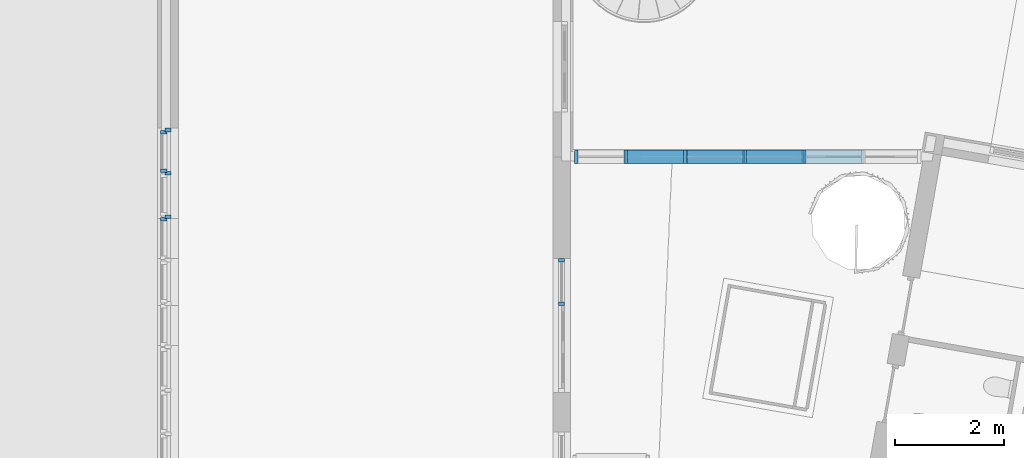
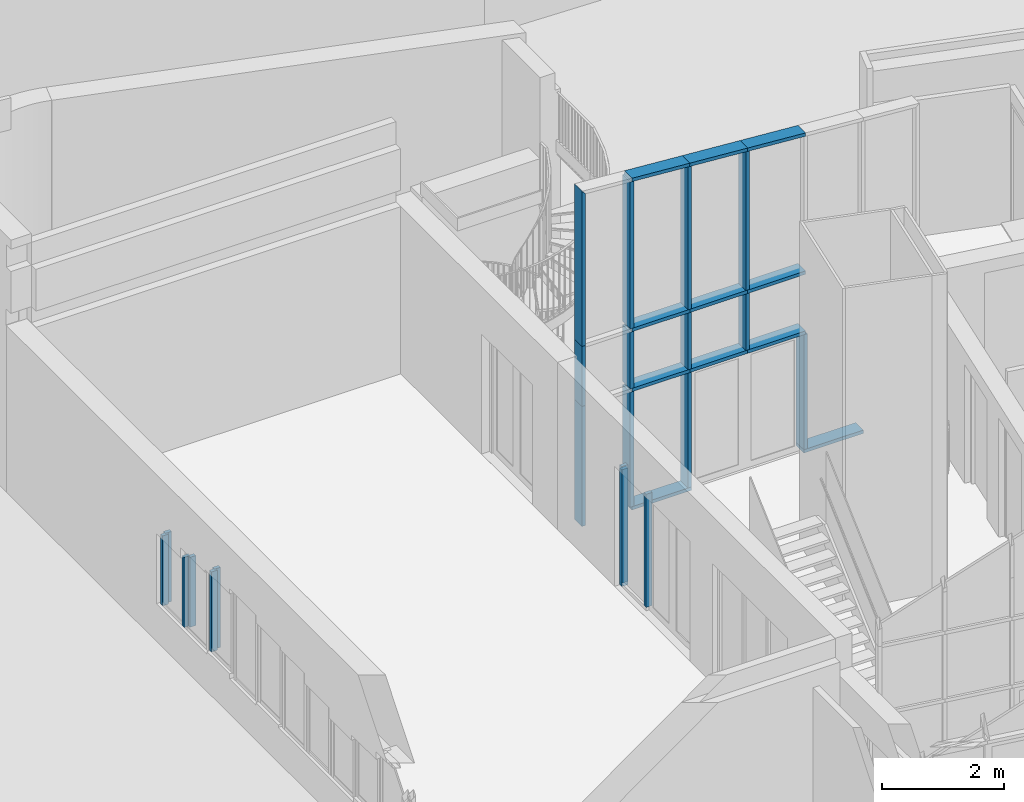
# One storey, part 5 of 21: 32 members, 6 elements without a shape of their own.
"""IFC2X3 building model written with IfcOpenShell, lengths in millimetres."""

from ifc_helpers import new_model, entity, si_unit, converted_unit, derived_unit, direction, frame, frame_2d, origin, origin_2d_with_axis, place, context, subcontext, project, spatial, polyline, rectangle, outline, extrude, clip, halfspace, bounded_halfspace, source, transform, mapped, material, type_object, type_shapes, element, aggregate, save


model = new_model("IFC2X3")

# Units and contexts
model_context = context("Model", 3, precision=0.01, world=origin(), true_north=direction((6.12303176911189e-17, 1.0)))
body_context = subcontext(model_context, "Body", "Model", "MODEL_VIEW")
ifc_project = project(units=[si_unit("LENGTHUNIT", "METRE", prefix="MILLI"), si_unit("AREAUNIT", "SQUARE_METRE"), si_unit("VOLUMEUNIT", "CUBIC_METRE"), converted_unit("PLANEANGLEUNIT", "DEGREE", entity("IfcRatioMeasure", 0.0174532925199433), si_unit("PLANEANGLEUNIT", "RADIAN"), dimensions=[0, 0, 0, 0, 0, 0, 0]), si_unit("MASSUNIT", "GRAM", prefix="KILO"), derived_unit("MASSDENSITYUNIT", [(si_unit("MASSUNIT", "GRAM", prefix="KILO"), 1), (si_unit("LENGTHUNIT", "METRE"), -3)]), derived_unit("MOMENTOFINERTIAUNIT", [(si_unit("LENGTHUNIT", "METRE"), 4)]), si_unit("TIMEUNIT", "SECOND"), si_unit("FREQUENCYUNIT", "HERTZ"), si_unit("THERMODYNAMICTEMPERATUREUNIT", "DEGREE_CELSIUS"), derived_unit("THERMALTRANSMITTANCEUNIT", [(si_unit("MASSUNIT", "GRAM", prefix="KILO"), 1), (si_unit("THERMODYNAMICTEMPERATUREUNIT", "KELVIN"), -1), (si_unit("TIMEUNIT", "SECOND"), -3)]), derived_unit("VOLUMETRICFLOWRATEUNIT", [(si_unit("LENGTHUNIT", "METRE"), 3), (si_unit("TIMEUNIT", "SECOND"), -1)]), si_unit("ELECTRICCURRENTUNIT", "AMPERE"), si_unit("ELECTRICVOLTAGEUNIT", "VOLT"), si_unit("POWERUNIT", "WATT"), si_unit("FORCEUNIT", "NEWTON", prefix="KILO"), si_unit("ILLUMINANCEUNIT", "LUX"), si_unit("LUMINOUSFLUXUNIT", "LUMEN"), si_unit("LUMINOUSINTENSITYUNIT", "CANDELA"), derived_unit("USERDEFINED", [(si_unit("MASSUNIT", "GRAM", prefix="KILO"), -1), (si_unit("LENGTHUNIT", "METRE"), -2), (si_unit("TIMEUNIT", "SECOND"), 3), (si_unit("LUMINOUSFLUXUNIT", "LUMEN"), 1)]), derived_unit("LINEARVELOCITYUNIT", [(si_unit("LENGTHUNIT", "METRE"), 1), (si_unit("TIMEUNIT", "SECOND"), -1)]), si_unit("PRESSUREUNIT", "PASCAL"), derived_unit("USERDEFINED", [(si_unit("LENGTHUNIT", "METRE"), -2), (si_unit("MASSUNIT", "GRAM", prefix="KILO"), 1), (si_unit("TIMEUNIT", "SECOND"), -2)]), derived_unit("LINEARFORCEUNIT", [(si_unit("MASSUNIT", "GRAM", prefix="KILO"), 1), (si_unit("LENGTHUNIT", "METRE"), 1), (si_unit("TIMEUNIT", "SECOND"), -2), (si_unit("LENGTHUNIT", "METRE"), -1)]), derived_unit("PLANARFORCEUNIT", [(si_unit("MASSUNIT", "GRAM", prefix="KILO"), 1), (si_unit("LENGTHUNIT", "METRE"), 1), (si_unit("TIMEUNIT", "SECOND"), -2), (si_unit("LENGTHUNIT", "METRE"), -2)])], contexts=[model_context])

# Site, building, storey
site_placement = place(None, origin())
site = spatial("IfcSite", under=ifc_project, at=site_placement, Name="<Kadaster Gemeente>;<Kadaster nummer>;<Kadaster sectie>", CompositionType="ELEMENT")
building_placement = place(site_placement, origin())
building = spatial("IfcBuilding", under=site, at=building_placement, Name="JRCZ Middelburg", CompositionType="ELEMENT")
storey_placement = place(building_placement, origin())
storey = spatial("IfcBuildingStorey", under=building, at=storey_placement, Name="00 begane grond", CompositionType="ELEMENT", Elevation=0.0)

# Curtain wall, members
curtain_wall_type_1 = type_object("IfcCurtainWallType", Name="Curtain Wall:Vliesgevel C", PredefinedType="NOTDEFINED")
curtain_wall_1_placement = place(storey_placement, origin())
curtain_wall_1 = element("IfcCurtainWall", 1, at=curtain_wall_1_placement, inside=storey, type_object=curtain_wall_type_1, Name="Curtain Wall:Vliesgevel C", ObjectType="Curtain Wall:Vliesgevel C")
ifc_material_1 = material(Name="RBM_a_kozijn licht")
member_type_1 = type_object("IfcMemberType", Name="Rectangular Mullion:31_CWM_067x114 vliesgevel", PredefinedType="MULLION", material=ifc_material_1)
shared_shape_1 = source(origin(), body_context, "Body", "SweptSolid", [
    extrude(rectangle(XDim=250.0, YDim=67.0, at=origin_2d_with_axis()), frame((0.0, -57.0, -2299.5), z_axis=(0.0, 0.0, 1.0), x_axis=(0.0, -1.0, 0.0)), (0.0, 0.0, 1.0), 2299.5),
])
type_shapes(member_type_1, [shared_shape_1])
member_1_placement = place(storey_placement, frame((19481.1567335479, 19046.62338787, 67.0), z_axis=(0.0, 0.0, -1.0), x_axis=(1.0, 0.0, 0.0)))
member_1 = element("IfcMember", 2, at=member_1_placement, type_object=member_type_1, material=ifc_material_1, Name="Rectangular Mullion:31_CWM_067x114 vliesgevel", ObjectType="Rectangular Mullion:31_CWM_067x114 vliesgevel", context=body_context, shape_type="MappedRepresentation", body=[
    mapped(shared_shape_1, transform((0.0, 0.0, 0.0), scale=1.0)),
])
member_2_placement = place(storey_placement, frame((18386.4296349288, 19046.62338787, 67.0), z_axis=(0.0, 0.0, -1.0), x_axis=(1.0, 0.0, 0.0)))
member_2 = element("IfcMember", 3, at=member_2_placement, type_object=member_type_1, material=ifc_material_1, Name="Rectangular Mullion:31_CWM_067x114 vliesgevel", ObjectType="Rectangular Mullion:31_CWM_067x114 vliesgevel", context=body_context, shape_type="MappedRepresentation", body=[
    mapped(shared_shape_1, transform((0.0, 0.0, 0.0), scale=1.0)),
])
member_3_placement = place(storey_placement, frame((21670.6109307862, 19046.62338787, 67.0), z_axis=(0.0, 0.0, -1.0), x_axis=(1.0, 0.0, 0.0)))
member_3 = element("IfcMember", 4, at=member_3_placement, type_object=member_type_1, material=ifc_material_1, Name="Rectangular Mullion:31_CWM_067x114 vliesgevel", ObjectType="Rectangular Mullion:31_CWM_067x114 vliesgevel", context=body_context, shape_type="MappedRepresentation", body=[
    mapped(shared_shape_1, transform((0.0, 0.0, 0.0), scale=1.0)),
])
member_type_2 = type_object("IfcMemberType", Name="Rectangular Mullion:31_CWM_067x114 vliesgevel", PredefinedType="MULLION", material=ifc_material_1)
shared_shape_2 = source(origin(), body_context, "Body", "SweptSolid", [
    extrude(rectangle(XDim=250.0, YDim=67.0, at=origin_2d_with_axis()), frame((-33.5, -57.0, -2400.0), z_axis=(0.0, 0.0, 1.0), x_axis=(0.0, -1.0, 0.0)), (0.0, 0.0, 1.0), 2400.0),
])
type_shapes(member_type_2, [shared_shape_2])
member_4_placement = place(storey_placement, frame((17439.9418785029, 19046.62338787, 2400.0), z_axis=(0.0, 0.0, 1.0), x_axis=(-1.0, 0.0, 0.0)))
member_4 = element("IfcMember", 5, at=member_4_placement, type_object=member_type_2, material=ifc_material_1, Name="Rectangular Mullion:31_CWM_067x114 vliesgevel", ObjectType="Rectangular Mullion:31_CWM_067x114 vliesgevel", context=body_context, shape_type="MappedRepresentation", body=[
    mapped(shared_shape_2, transform((0.0, 0.0, 0.0), scale=1.0)),
])
member_type_3 = type_object("IfcMemberType", Name="Rectangular Mullion:31_CWM_067x114 vliesgevel", PredefinedType="MULLION", material=ifc_material_1)
shared_shape_3 = source(origin(), body_context, "Body", "SweptSolid", [
    extrude(rectangle(XDim=250.0, YDim=67.0, at=origin_2d_with_axis()), frame((0.0, -57.0, -1133.0), z_axis=(0.0, 0.0, 1.0), x_axis=(0.0, -1.0, 0.0)), (0.0, 0.0, 1.0), 1133.0),
])
type_shapes(member_type_3, [shared_shape_3])
member_5_placement = place(storey_placement, frame((18386.4296349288, 19046.62338787, 2433.5), z_axis=(0.0, 0.0, -1.0), x_axis=(1.0, 0.0, 0.0)))
member_5 = element("IfcMember", 6, at=member_5_placement, type_object=member_type_3, material=ifc_material_1, Name="Rectangular Mullion:31_CWM_067x114 vliesgevel", ObjectType="Rectangular Mullion:31_CWM_067x114 vliesgevel", context=body_context, shape_type="MappedRepresentation", body=[
    mapped(shared_shape_3, transform((0.0, 0.0, 0.0), scale=1.0)),
])
member_6_placement = place(storey_placement, frame((19481.1567335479, 19046.62338787, 2433.5), z_axis=(0.0, 0.0, -1.0), x_axis=(1.0, 0.0, 0.0)))
member_6 = element("IfcMember", 7, at=member_6_placement, type_object=member_type_3, material=ifc_material_1, Name="Rectangular Mullion:31_CWM_067x114 vliesgevel", ObjectType="Rectangular Mullion:31_CWM_067x114 vliesgevel", context=body_context, shape_type="MappedRepresentation", body=[
    mapped(shared_shape_3, transform((0.0, 0.0, 0.0), scale=1.0)),
])
member_7_placement = place(storey_placement, frame((20575.883832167, 19046.62338787, 2433.5), z_axis=(0.0, 0.0, -1.0), x_axis=(1.0, 0.0, 0.0)))
member_7 = element("IfcMember", 8, at=member_7_placement, type_object=member_type_3, material=ifc_material_1, Name="Rectangular Mullion:31_CWM_067x114 vliesgevel", ObjectType="Rectangular Mullion:31_CWM_067x114 vliesgevel", context=body_context, shape_type="MappedRepresentation", body=[
    mapped(shared_shape_3, transform((0.0, 0.0, 0.0), scale=1.0)),
])
member_type_4 = type_object("IfcMemberType", Name="Rectangular Mullion:31_CWM_067x114 vliesgevel", PredefinedType="MULLION", material=ifc_material_1)
shared_shape_4 = source(origin(), body_context, "Body", "SweptSolid", [
    extrude(rectangle(XDim=250.0, YDim=67.0, at=origin_2d_with_axis()), frame((-33.5, -57.0, -1200.0), z_axis=(0.0, 0.0, 1.0), x_axis=(0.0, -1.0, 0.0)), (0.0, 0.0, 1.0), 1200.0),
])
type_shapes(member_type_4, [shared_shape_4])
member_8_placement = place(storey_placement, frame((17439.9418785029, 19046.62338787, 3600.0), z_axis=(0.0, 0.0, 1.0), x_axis=(-1.0, 0.0, 0.0)))
member_8 = element("IfcMember", 9, at=member_8_placement, type_object=member_type_4, material=ifc_material_1, Name="Rectangular Mullion:31_CWM_067x114 vliesgevel", ObjectType="Rectangular Mullion:31_CWM_067x114 vliesgevel", context=body_context, shape_type="MappedRepresentation", body=[
    mapped(shared_shape_4, transform((0.0, 0.0, 0.0), scale=1.0)),
])

curtain_wall_type_2 = type_object("IfcCurtainWallType", Name="Curtain Wall:NLRS_32_CW_067x114", PredefinedType="NOTDEFINED")
curtain_wall_2_placement = place(storey_placement, origin())
curtain_wall_2 = element("IfcCurtainWall", 10, at=curtain_wall_2_placement, inside=storey, type_object=curtain_wall_type_2, Name="Curtain Wall:NLRS_32_CW_067x114", ObjectType="Curtain Wall:NLRS_32_CW_067x114")
ifc_material_2 = material(Name="RBM_i2_binnenkozijn")
member_type_5 = type_object("IfcMemberType", Name="Rectangular Mullion:32_CWM_067x114", PredefinedType="MULLION", material=ifc_material_2)
shared_shape_5 = source(origin(), body_context, "Body", "SweptSolid", [
    extrude(rectangle(XDim=113.999999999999, YDim=67.0, at=origin_2d_with_axis()), frame((-33.5, 0.0, -2400.0), z_axis=(0.0, 0.0, 1.0), x_axis=(0.0, -1.0, 0.0)), (0.0, 0.0, 1.0), 2400.0),
])
type_shapes(member_type_5, [shared_shape_5])
member_9_placement = place(storey_placement, frame((17203.0, 17233.4999996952, 0.0), z_axis=(0.0, 0.0, -1.0), x_axis=(0.0, 1.0, 0.0)))
member_9 = element("IfcMember", 11, at=member_9_placement, type_object=member_type_5, material=ifc_material_2, Name="Rectangular Mullion:32_CWM_067x114", ObjectType="Rectangular Mullion:32_CWM_067x114", context=body_context, shape_type="MappedRepresentation", body=[
    mapped(shared_shape_5, transform((0.0, 0.0, 0.0), scale=1.0)),
])
member_type_6 = type_object("IfcMemberType", Name="Rectangular Mullion:32_CWM_067x114", PredefinedType="MULLION", material=ifc_material_2)
shared_shape_6 = source(origin(), body_context, "Body", "SweptSolid", [
    extrude(rectangle(XDim=113.999999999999, YDim=67.0, at=origin_2d_with_axis()), frame((0.0, 0.0, -2266.0), z_axis=(0.0, 0.0, 1.0), x_axis=(0.0, -1.0, 0.0)), (0.0, 0.0, 1.0), 2266.0),
])
type_shapes(member_type_6, [shared_shape_6])
member_10_placement = place(storey_placement, frame((17203.0, 16400.0, 67.0), z_axis=(0.0, 0.0, -1.0), x_axis=(0.0, 1.0, 0.0)))
member_10 = element("IfcMember", 12, at=member_10_placement, type_object=member_type_6, material=ifc_material_2, Name="Rectangular Mullion:32_CWM_067x114", ObjectType="Rectangular Mullion:32_CWM_067x114", context=body_context, shape_type="MappedRepresentation", body=[
    mapped(shared_shape_6, transform((0.0, 0.0, 0.0), scale=1.0)),
])
member_11_placement = place(storey_placement, frame((17203.0, 17200.0, 67.0), z_axis=(0.0, 0.0, -1.0), x_axis=(0.0, 1.0, 0.0)))
member_11 = element("IfcMember", 13, at=member_11_placement, type_object=member_type_6, material=ifc_material_2, Name="Rectangular Mullion:32_CWM_067x114", ObjectType="Rectangular Mullion:32_CWM_067x114", context=body_context, shape_type="MappedRepresentation", body=[
    mapped(shared_shape_6, transform((0.0, 0.0, 0.0), scale=1.0)),
])
aggregate(curtain_wall_2, [member_9, member_10, member_11])

# Member
member_type_7 = type_object("IfcMemberType", Name="Rectangular Mullion:31_CWM_067x114 vliesgevel", PredefinedType="MULLION", material=ifc_material_1)
shared_shape_7 = source(origin(), body_context, "Body", "SweptSolid", [
    extrude(rectangle(XDim=250.0, YDim=67.0, at=origin_2d_with_axis()), frame((-33.5, -57.0, -1128.22709861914), z_axis=(0.0, 0.0, 1.0), x_axis=(0.0, -1.0, 0.0)), (0.0, 0.0, 1.0), 1128.22709861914),
])
type_shapes(member_type_7, [shared_shape_7])
member_12_placement = place(storey_placement, frame((18386.4296349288, 19046.62338787, 0.0), z_axis=(-1.0, 0.0, 0.0), x_axis=(0.0, 0.0, -1.0)))
member_12 = element("IfcMember", 14, at=member_12_placement, type_object=member_type_7, material=ifc_material_1, Name="Rectangular Mullion:31_CWM_067x114 vliesgevel", ObjectType="Rectangular Mullion:31_CWM_067x114 vliesgevel", context=body_context, shape_type="MappedRepresentation", body=[
    mapped(shared_shape_7, transform((0.0, 0.0, 0.0), scale=1.0)),
])

member_type_8 = type_object("IfcMemberType", Name="Rectangular Mullion:31_CWM_067x114 vliesgevel", PredefinedType="MULLION", material=ifc_material_1)
shared_shape_8 = source(origin(), body_context, "Body", "SweptSolid", [
    extrude(rectangle(XDim=250.0, YDim=67.0, at=origin_2d_with_axis()), frame((-33.5, -57.0, -1128.22709861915), z_axis=(0.0, 0.0, 1.0), x_axis=(0.0, -1.0, 0.0)), (0.0, 0.0, 1.0), 1128.22709861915),
])
type_shapes(member_type_8, [shared_shape_8])
member_13_placement = place(storey_placement, frame((21637.1109307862, 19046.62338787, 0.0), z_axis=(-1.0, 0.0, 0.0), x_axis=(0.0, 0.0, -1.0)))
member_13 = element("IfcMember", 15, at=member_13_placement, type_object=member_type_8, material=ifc_material_1, Name="Rectangular Mullion:31_CWM_067x114 vliesgevel", ObjectType="Rectangular Mullion:31_CWM_067x114 vliesgevel", context=body_context, shape_type="MappedRepresentation", body=[
    mapped(shared_shape_8, transform((0.0, 0.0, 0.0), scale=1.0)),
])

member_type_9 = type_object("IfcMemberType", Name="Rectangular Mullion:31_CWM_067x114 vliesgevel", PredefinedType="MULLION", material=ifc_material_1)
shared_shape_9 = source(origin(), body_context, "Body", "SweptSolid", [
    extrude(rectangle(XDim=250.0, YDim=67.0, at=origin_2d_with_axis()), frame((0.0, -57.0, -1094.72709861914), z_axis=(0.0, 0.0, 1.0), x_axis=(0.0, -1.0, 0.0)), (0.0, 0.0, 1.0), 1094.72709861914),
])
type_shapes(member_type_9, [shared_shape_9])
member_14_placement = place(storey_placement, frame((19481.1567335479, 19046.62338787, 2400.0), z_axis=(1.0, 0.0, 0.0), x_axis=(0.0, 0.0, 1.0)))
member_14 = element("IfcMember", 16, at=member_14_placement, type_object=member_type_9, material=ifc_material_1, Name="Rectangular Mullion:31_CWM_067x114 vliesgevel", ObjectType="Rectangular Mullion:31_CWM_067x114 vliesgevel", context=body_context, shape_type="MappedRepresentation", body=[
    mapped(shared_shape_9, transform((0.0, 0.0, 0.0), scale=1.0)),
])

member_15_placement = place(storey_placement, frame((20575.883832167, 19046.62338787, 2400.0), z_axis=(1.0, 0.0, 0.0), x_axis=(0.0, 0.0, 1.0)))
member_15 = element("IfcMember", 17, at=member_15_placement, type_object=member_type_9, material=ifc_material_1, Name="Rectangular Mullion:31_CWM_067x114 vliesgevel", ObjectType="Rectangular Mullion:31_CWM_067x114 vliesgevel", context=body_context, shape_type="MappedRepresentation", body=[
    mapped(shared_shape_9, transform((0.0, 0.0, 0.0), scale=1.0)),
])

member_16_placement = place(storey_placement, frame((21670.6109307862, 19046.62338787, 2400.0), z_axis=(1.0, 0.0, 0.0), x_axis=(0.0, 0.0, 1.0)))
member_16 = element("IfcMember", 18, at=member_16_placement, type_object=member_type_9, material=ifc_material_1, Name="Rectangular Mullion:31_CWM_067x114 vliesgevel", ObjectType="Rectangular Mullion:31_CWM_067x114 vliesgevel", context=body_context, shape_type="MappedRepresentation", body=[
    mapped(shared_shape_9, transform((0.0, 0.0, 0.0), scale=1.0)),
])

member_17_placement = place(storey_placement, frame((19481.1567335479, 19046.62338787, 3600.0), z_axis=(1.0, 0.0, 0.0), x_axis=(0.0, 0.0, 1.0)))
member_17 = element("IfcMember", 19, at=member_17_placement, type_object=member_type_9, material=ifc_material_1, Name="Rectangular Mullion:31_CWM_067x114 vliesgevel", ObjectType="Rectangular Mullion:31_CWM_067x114 vliesgevel", context=body_context, shape_type="MappedRepresentation", body=[
    mapped(shared_shape_9, transform((0.0, 0.0, 0.0), scale=1.0)),
])

member_18_placement = place(storey_placement, frame((21670.6109307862, 19046.62338787, 3600.0), z_axis=(1.0, 0.0, 0.0), x_axis=(0.0, 0.0, 1.0)))
member_18 = element("IfcMember", 20, at=member_18_placement, type_object=member_type_9, material=ifc_material_1, Name="Rectangular Mullion:31_CWM_067x114 vliesgevel", ObjectType="Rectangular Mullion:31_CWM_067x114 vliesgevel", context=body_context, shape_type="MappedRepresentation", body=[
    mapped(shared_shape_9, transform((0.0, 0.0, 0.0), scale=1.0)),
])

member_19_placement = place(storey_placement, frame((20575.883832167, 19046.62338787, 3600.0), z_axis=(1.0, 0.0, 0.0), x_axis=(0.0, 0.0, 1.0)))
member_19 = element("IfcMember", 21, at=member_19_placement, type_object=member_type_9, material=ifc_material_1, Name="Rectangular Mullion:31_CWM_067x114 vliesgevel", ObjectType="Rectangular Mullion:31_CWM_067x114 vliesgevel", context=body_context, shape_type="MappedRepresentation", body=[
    mapped(shared_shape_9, transform((0.0, 0.0, 0.0), scale=1.0)),
])

member_type_10 = type_object("IfcMemberType", Name="Rectangular Mullion:31_CWM_067x114 vliesgevel", PredefinedType="MULLION", material=ifc_material_1)
shared_shape_10 = source(origin(), body_context, "Body", "Clipping", [
    clip(clip(extrude(rectangle(XDim=250.0, YDim=67.0, at=origin_2d_with_axis()), frame((0.0, -57.0, -2776.99208545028), z_axis=(0.0, 0.0, 1.0), x_axis=(0.0, -1.0, 0.0)), (0.0, 0.0, 1.0), 2776.99208545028), bounded_halfspace(frame((-4.9352155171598, 68.0, -2774.88227385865), z_axis=(0.0736599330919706, 0.0, -0.997283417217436), x_axis=(-0.997283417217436, 0.0, -0.0736599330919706)), False, frame((0.0, -57.0, -2776.99208545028), z_axis=(0.0, 0.0, 1.0), x_axis=(0.0, -1.0, 0.0)), polyline([(125.0, -4.93521551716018), (125.0, -33.5), (-125.0, -33.5), (-125.0, -4.93521551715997), (125.0, -4.93521551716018)]))), bounded_halfspace(frame((1089.79188310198, 68.0, -2694.02509379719), z_axis=(0.0736599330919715, 0.0, -0.997283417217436), x_axis=(-0.997283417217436, 0.0, -0.0736599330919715)), False, frame((0.0, -57.0, -2776.99208545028), z_axis=(0.0, 0.0, 1.0), x_axis=(0.0, -1.0, 0.0)), polyline([(-125.0, 33.5), (125.0, 33.5), (125.0, -4.93521551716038), (-125.0, -4.9352155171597), (-125.0, 33.5)]))),
])
type_shapes(member_type_10, [shared_shape_10])
member_20_placement = place(storey_placement, frame((20575.883832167, 19046.62338787, 3633.5), z_axis=(0.0, 0.0, -1.0), x_axis=(1.0, 0.0, 0.0)))
member_20 = element("IfcMember", 22, at=member_20_placement, type_object=member_type_10, material=ifc_material_1, Name="Rectangular Mullion:31_CWM_067x114 vliesgevel", ObjectType="Rectangular Mullion:31_CWM_067x114 vliesgevel", context=body_context, shape_type="MappedRepresentation", body=[
    mapped(shared_shape_10, transform((0.0, 0.0, 0.0), scale=1.0)),
])

member_type_11 = type_object("IfcMemberType", Name="Rectangular Mullion:31_CWM_067x114 vliesgevel", PredefinedType="MULLION", material=ifc_material_1)
shared_shape_11 = source(origin(), body_context, "Body", "Clipping", [
    clip(extrude(rectangle(XDim=250.0, YDim=67.0, at=origin_2d_with_axis()), frame((-33.5, -57.0, -3106.82275898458), z_axis=(0.0, 0.0, 1.0), x_axis=(0.0, -1.0, 0.0)), (0.0, 0.0, 1.0), 3106.82275898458), halfspace(frame((0.0, -304.8, 0.0), z_axis=(-0.732686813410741, 0.0, 0.680565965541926), x_axis=(-0.680565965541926, 0.0, -0.732686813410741)), False)),
])
type_shapes(member_type_11, [shared_shape_11])
member_21_placement = place(storey_placement, frame((17439.9418785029, 19046.62338787, 6706.82275898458), z_axis=(0.0, 0.0, 1.0), x_axis=(-1.0, 0.0, 0.0)))
member_21 = element("IfcMember", 23, at=member_21_placement, type_object=member_type_11, material=ifc_material_1, Name="Rectangular Mullion:31_CWM_067x114 vliesgevel", ObjectType="Rectangular Mullion:31_CWM_067x114 vliesgevel", context=body_context, shape_type="MappedRepresentation", body=[
    mapped(shared_shape_11, transform((0.0, 0.0, 0.0), scale=1.0)),
])

member_type_12 = type_object("IfcMemberType", Name="Rectangular Mullion:31_CWM_067x114 vliesgevel", PredefinedType="MULLION", material=ifc_material_1)
shared_shape_12 = source(origin(), body_context, "Body", "Clipping", [
    clip(clip(extrude(rectangle(XDim=250.0, YDim=67.0, at=origin_2d_with_axis()), frame((0.0, -57.0, -2938.70644557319), z_axis=(0.0, 0.0, 1.0), x_axis=(0.0, -1.0, 0.0)), (0.0, 0.0, 1.0), 2938.70644557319), bounded_halfspace(frame((-4.93521551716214, 68.0, -2936.59663398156), z_axis=(0.0736599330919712, 0.0, -0.997283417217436), x_axis=(-0.997283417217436, 0.0, -0.0736599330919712)), False, frame((0.0, -57.0, -2938.70644557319), z_axis=(0.0, 0.0, 1.0), x_axis=(0.0, -1.0, 0.0)), polyline([(125.0, -4.93521551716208), (125.0, -33.5), (-125.0, -33.5), (-125.0, -4.93521551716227), (125.0, -4.93521551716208)]))), bounded_halfspace(frame((1089.79188310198, 68.0, -2855.7394539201), z_axis=(0.0736599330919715, 0.0, -0.997283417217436), x_axis=(-0.997283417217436, 0.0, -0.0736599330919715)), False, frame((0.0, -57.0, -2938.70644557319), z_axis=(0.0, 0.0, 1.0), x_axis=(0.0, -1.0, 0.0)), polyline([(-125.0, 33.5), (125.0, 33.5), (125.0, -4.93521551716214), (-125.0, -4.93521551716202), (-125.0, 33.5)]))),
])
type_shapes(member_type_12, [shared_shape_12])
member_22_placement = place(storey_placement, frame((18386.4296349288, 19046.62338787, 3633.5), z_axis=(0.0, 0.0, -1.0), x_axis=(1.0, 0.0, 0.0)))
member_22 = element("IfcMember", 24, at=member_22_placement, type_object=member_type_12, material=ifc_material_1, Name="Rectangular Mullion:31_CWM_067x114 vliesgevel", ObjectType="Rectangular Mullion:31_CWM_067x114 vliesgevel", context=body_context, shape_type="MappedRepresentation", body=[
    mapped(shared_shape_12, transform((0.0, 0.0, 0.0), scale=1.0)),
])

member_type_13 = type_object("IfcMemberType", Name="Rectangular Mullion:31_CWM_067x114 vliesgevel", PredefinedType="MULLION", material=ifc_material_1)
shared_shape_13 = source(origin(), body_context, "Body", "SweptSolid", [
    extrude(rectangle(XDim=250.0, YDim=67.0, at=origin_2d_with_axis()), frame((-33.5, -57.0, -1097.70911630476), z_axis=(0.0, 0.0, 1.0), x_axis=(0.0, -1.0, 0.0)), (0.0, 0.0, 1.0), 1097.70911630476),
])
type_shapes(member_type_13, [shared_shape_13])
member_23_placement = place(storey_placement, frame((20575.883832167, 19046.62338787, 6475.20026281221), z_axis=(0.997283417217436, 0.0, -0.0736599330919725), x_axis=(0.0736599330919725, 0.0, 0.997283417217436)))
member_23 = element("IfcMember", 25, at=member_23_placement, type_object=member_type_13, material=ifc_material_1, Name="Rectangular Mullion:31_CWM_067x114 vliesgevel", ObjectType="Rectangular Mullion:31_CWM_067x114 vliesgevel", context=body_context, shape_type="MappedRepresentation", body=[
    mapped(shared_shape_13, transform((0.0, 0.0, 0.0), scale=1.0)),
])

member_24_placement = place(storey_placement, frame((21670.6109307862, 19046.62338787, 6394.34308275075), z_axis=(0.997283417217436, 0.0, -0.0736599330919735), x_axis=(0.0736599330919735, 0.0, 0.997283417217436)))
member_24 = element("IfcMember", 26, at=member_24_placement, type_object=member_type_13, material=ifc_material_1, Name="Rectangular Mullion:31_CWM_067x114 vliesgevel", ObjectType="Rectangular Mullion:31_CWM_067x114 vliesgevel", context=body_context, shape_type="MappedRepresentation", body=[
    mapped(shared_shape_13, transform((0.0, 0.0, 0.0), scale=1.0)),
])

member_type_14 = type_object("IfcMemberType", Name="Rectangular Mullion:31_CWM_067x114 vliesgevel", PredefinedType="MULLION", material=ifc_material_1)
shared_shape_14 = source(origin(), body_context, "Body", "SweptSolid", [
    extrude(rectangle(XDim=250.0, YDim=67.0, at=origin_2d_with_axis()), frame((-33.5, -57.0, -1097.70911630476), z_axis=(0.0, 0.0, 1.0), x_axis=(0.0, -1.0, 0.0)), (0.0, 0.0, 1.0), 1097.70911630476),
])
type_shapes(member_type_14, [shared_shape_14])
member_25_placement = place(storey_placement, frame((19481.1567335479, 19046.62338787, 6556.05744287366), z_axis=(0.997283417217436, 0.0, -0.0736599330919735), x_axis=(0.0736599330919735, 0.0, 0.997283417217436)))
member_25 = element("IfcMember", 27, at=member_25_placement, type_object=member_type_14, material=ifc_material_1, Name="Rectangular Mullion:31_CWM_067x114 vliesgevel", ObjectType="Rectangular Mullion:31_CWM_067x114 vliesgevel", context=body_context, shape_type="MappedRepresentation", body=[
    mapped(shared_shape_14, transform((0.0, 0.0, 0.0), scale=1.0)),
])

member_type_15 = type_object("IfcMemberType", Name="Rectangular Mullion:31_CWM_067x114 vliesgevel", PredefinedType="MULLION", material=ifc_material_1)
shared_shape_15 = source(origin(), body_context, "Body", "Clipping", [
    clip(clip(extrude(rectangle(XDim=250.0, YDim=67.0, at=origin_2d_with_axis()), frame((0.0, -57.0, -2857.84926551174), z_axis=(0.0, 0.0, 1.0), x_axis=(0.0, -1.0, 0.0)), (0.0, 0.0, 1.0), 2857.84926551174), bounded_halfspace(frame((-4.93521551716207, 68.0, -2855.7394539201), z_axis=(0.0736599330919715, 0.0, -0.997283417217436), x_axis=(-0.997283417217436, 0.0, -0.0736599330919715)), False, frame((0.0, -57.0, -2857.84926551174), z_axis=(0.0, 0.0, 1.0), x_axis=(0.0, -1.0, 0.0)), polyline([(125.0, -4.93521551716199), (125.0, -33.5), (-125.0, -33.5), (-125.0, -4.93521551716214), (125.0, -4.93521551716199)]))), bounded_halfspace(frame((1089.79188310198, 68.0, -2774.88227385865), z_axis=(0.0736599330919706, 0.0, -0.997283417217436), x_axis=(-0.997283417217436, 0.0, -0.0736599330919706)), False, frame((0.0, -57.0, -2857.84926551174), z_axis=(0.0, 0.0, 1.0), x_axis=(0.0, -1.0, 0.0)), polyline([(-125.0, 33.5), (125.0, 33.5), (125.0, -4.935215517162), (-125.0, -4.9352155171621), (-125.0, 33.5)]))),
])
type_shapes(member_type_15, [shared_shape_15])
member_26_placement = place(storey_placement, frame((19481.1567335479, 19046.62338787, 3633.5), z_axis=(0.0, 0.0, -1.0), x_axis=(1.0, 0.0, 0.0)))
member_26 = element("IfcMember", 28, at=member_26_placement, type_object=member_type_15, material=ifc_material_1, Name="Rectangular Mullion:31_CWM_067x114 vliesgevel", ObjectType="Rectangular Mullion:31_CWM_067x114 vliesgevel", context=body_context, shape_type="MappedRepresentation", body=[
    mapped(shared_shape_15, transform((0.0, 0.0, 0.0), scale=1.0)),
])

aggregate(curtain_wall_1, [member_1, member_12, member_2, member_13, member_3, member_14, member_15, member_16, member_5, member_6, member_7, member_17, member_18, member_20, member_21, member_4, member_8, member_22, member_23, member_25, member_24, member_19, member_26])

# Curtain wall, members
curtain_wall_type_3 = type_object("IfcCurtainWallType", Name="Curtain Wall:NLRS_31_CW_hsb rek 63x196mm h.o.h. 800mm", PredefinedType="NOTDEFINED")
curtain_wall_3_placement = place(storey_placement, origin())
curtain_wall_3 = element("IfcCurtainWall", 29, at=curtain_wall_3_placement, inside=storey, type_object=curtain_wall_type_3, Name="Curtain Wall:NLRS_31_CW_hsb rek 63x196mm h.o.h. 800mm", ObjectType="Curtain Wall:NLRS_31_CW_hsb rek 63x196mm h.o.h. 800mm")
member_type_16 = type_object("IfcMemberType", Name="Rectangular Mullion:32_CWM_067x114", PredefinedType="MULLION", material=ifc_material_2)
shared_shape_16 = source(origin(), body_context, "Body", "SweptSolid", [
    extrude(rectangle(XDim=67.0000000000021, YDim=114.0, at=frame_2d((4.33075797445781e-12, 1.08002495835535e-12), x_axis=(1.0, 0.0))), frame((9956.0, 19598.0, 750.0), z_axis=(0.0, 0.0, 1.0), x_axis=(0.0, -1.0, 0.0)), (0.0, 0.0, 1.0), 1400.0),
])
type_shapes(member_type_16, [shared_shape_16])
member_27_placement = place(storey_placement, origin())
member_27 = element("IfcMember", 30, at=member_27_placement, type_object=member_type_16, material=ifc_material_2, Name="Rectangular Mullion:32_CWM_067x114", ObjectType="Rectangular Mullion:32_CWM_067x114", context=body_context, shape_type="MappedRepresentation", body=[
    mapped(shared_shape_16, transform((0.0, 0.0, 0.0), scale=1.0)),
])
member_type_17 = type_object("IfcMemberType", Name="Rectangular Mullion:32_CWM_067x114", PredefinedType="MULLION", material=ifc_material_2)
shared_shape_17 = source(origin(), body_context, "Body", "SweptSolid", [
    extrude(rectangle(XDim=66.9999999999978, YDim=114.0, at=frame_2d((1.08357767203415e-12, 1.08002495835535e-12), x_axis=(1.0, 0.0))), frame((9956.0, 18802.0, 750.0), z_axis=(0.0, 0.0, 1.0), x_axis=(0.0, -1.0, 0.0)), (0.0, 0.0, 1.0), 1400.0),
])
type_shapes(member_type_17, [shared_shape_17])
member_28_placement = place(storey_placement, origin())
member_28 = element("IfcMember", 31, at=member_28_placement, type_object=member_type_17, material=ifc_material_2, Name="Rectangular Mullion:32_CWM_067x114", ObjectType="Rectangular Mullion:32_CWM_067x114", context=body_context, shape_type="MappedRepresentation", body=[
    mapped(shared_shape_17, transform((0.0, 0.0, 0.0), scale=1.0)),
])
aggregate(curtain_wall_3, [member_27, member_28])

curtain_wall_type_4 = type_object("IfcCurtainWallType", Name="Curtain Wall:NLRS_31_CW_Ontwerpkozijn 067x114 2", PredefinedType="NOTDEFINED")
curtain_wall_4_placement = place(storey_placement, origin())
curtain_wall_4 = element("IfcCurtainWall", 32, at=curtain_wall_4_placement, inside=storey, type_object=curtain_wall_type_4, Name="Curtain Wall:NLRS_31_CW_Ontwerpkozijn 067x114 2", ObjectType="Curtain Wall:NLRS_31_CW_Ontwerpkozijn 067x114 2")
ifc_material_3 = material(Name="RBM_a_kozijn")
member_type_18 = type_object("IfcMemberType", Name="Rectangular Mullion:31_CWM_067x114", PredefinedType="MULLION", material=ifc_material_3)
shared_shape_18 = source(origin(), body_context, "Body", "SweptSolid", [
    extrude(rectangle(XDim=66.9999999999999, YDim=114.0, at=frame_2d((1.08357767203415e-12, -1.08002495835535e-12), x_axis=(1.0, 0.0))), frame((9874.0, 18846.0, 750.0), z_axis=(0.0, 0.0, 1.0), x_axis=(0.0, -1.0, 0.0)), (0.0, 0.0, 1.0), 1400.0),
])
type_shapes(member_type_18, [shared_shape_18])
member_29_placement = place(storey_placement, origin())
member_29 = element("IfcMember", 33, at=member_29_placement, type_object=member_type_18, material=ifc_material_3, Name="Rectangular Mullion:31_CWM_067x114", ObjectType="Rectangular Mullion:31_CWM_067x114", context=body_context, shape_type="MappedRepresentation", body=[
    mapped(shared_shape_18, transform((0.0, 0.0, 0.0), scale=1.0)),
])
member_type_19 = type_object("IfcMemberType", Name="Rectangular Mullion:31_CWM_067x114", PredefinedType="MULLION", material=ifc_material_3)
shared_shape_19 = source(origin(), body_context, "Body", "SweptSolid", [
    extrude(rectangle(XDim=67.0000000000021, YDim=114.0, at=frame_2d((-2.16360263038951e-12, 1.08002495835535e-12), x_axis=(1.0, 0.0))), frame((9874.0, 19554.0, 750.0), z_axis=(0.0, 0.0, 1.0), x_axis=(0.0, -1.0, 0.0)), (0.0, 0.0, 1.0), 1400.0),
])
type_shapes(member_type_19, [shared_shape_19])
member_30_placement = place(storey_placement, origin())
member_30 = element("IfcMember", 34, at=member_30_placement, type_object=member_type_19, material=ifc_material_3, Name="Rectangular Mullion:31_CWM_067x114", ObjectType="Rectangular Mullion:31_CWM_067x114", context=body_context, shape_type="MappedRepresentation", body=[
    mapped(shared_shape_19, transform((0.0, 0.0, 0.0), scale=1.0)),
])
aggregate(curtain_wall_4, [member_29, member_30])

# Curtain wall, member
curtain_wall_5_placement = place(storey_placement, origin())
curtain_wall_5 = element("IfcCurtainWall", 35, at=curtain_wall_5_placement, inside=storey, type_object=curtain_wall_type_3, Name="Curtain Wall:NLRS_31_CW_hsb rek 63x196mm h.o.h. 800mm", ObjectType="Curtain Wall:NLRS_31_CW_hsb rek 63x196mm h.o.h. 800mm")
member_type_20 = type_object("IfcMemberType", Name="Rectangular Mullion:32_CWM_067x114", PredefinedType="MULLION", material=ifc_material_2)
shared_shape_20 = source(origin(), body_context, "Body", "SweptSolid", [
    extrude(rectangle(XDim=66.9999999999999, YDim=114.0, at=frame_2d((1.08002495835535e-12, 0.0), x_axis=(1.0, 0.0))), frame((9956.0, 17998.0, 800.0), z_axis=(0.0, 0.0, 1.0), x_axis=(0.0, -1.0, 0.0)), (0.0, 0.0, 1.0), 1600.0),
])
type_shapes(member_type_20, [shared_shape_20])
member_31_placement = place(storey_placement, origin())
member_31 = element("IfcMember", 36, at=member_31_placement, type_object=member_type_20, material=ifc_material_2, Name="Rectangular Mullion:32_CWM_067x114", ObjectType="Rectangular Mullion:32_CWM_067x114", context=body_context, shape_type="MappedRepresentation", body=[
    mapped(shared_shape_20, transform((0.0, 0.0, 0.0), scale=1.0)),
])
aggregate(curtain_wall_5, [member_31])

curtain_wall_6_placement = place(storey_placement, origin())
curtain_wall_6 = element("IfcCurtainWall", 37, at=curtain_wall_6_placement, inside=storey, type_object=curtain_wall_type_4, Name="Curtain Wall:NLRS_31_CW_Ontwerpkozijn 067x114 2", ObjectType="Curtain Wall:NLRS_31_CW_Ontwerpkozijn 067x114 2")
member_type_21 = type_object("IfcMemberType", Name="Rectangular Mullion:31_CWM_067x114", PredefinedType="MULLION", material=ifc_material_3)
shared_shape_21 = source(origin(), body_context, "Body", "SweptSolid", [
    extrude(outline(polyline([(-30.0, -65.333333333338), (37.0, -65.333333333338), (37.0, 48.6666666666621), (-7.0, 48.6666666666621), (-7.0, 16.666666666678), (-30.0, 16.666666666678), (-30.0, -65.333333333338)])), frame((9882.33333333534, 17957.4999999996, 800.0), z_axis=(0.0, 0.0, 1.0), x_axis=(0.0, -1.0, 0.0)), (0.0, 0.0, 1.0), 1600.0),
])
type_shapes(member_type_21, [shared_shape_21])
member_32_placement = place(storey_placement, origin())
member_32 = element("IfcMember", 38, at=member_32_placement, type_object=member_type_21, material=ifc_material_3, Name="Rectangular Mullion:31_CWM_067x114", ObjectType="Rectangular Mullion:31_CWM_067x114", context=body_context, shape_type="MappedRepresentation", body=[
    mapped(shared_shape_21, transform((0.0, 0.0, 0.0), scale=1.0)),
])
aggregate(curtain_wall_6, [member_32])

save(model, "model.ifc")
